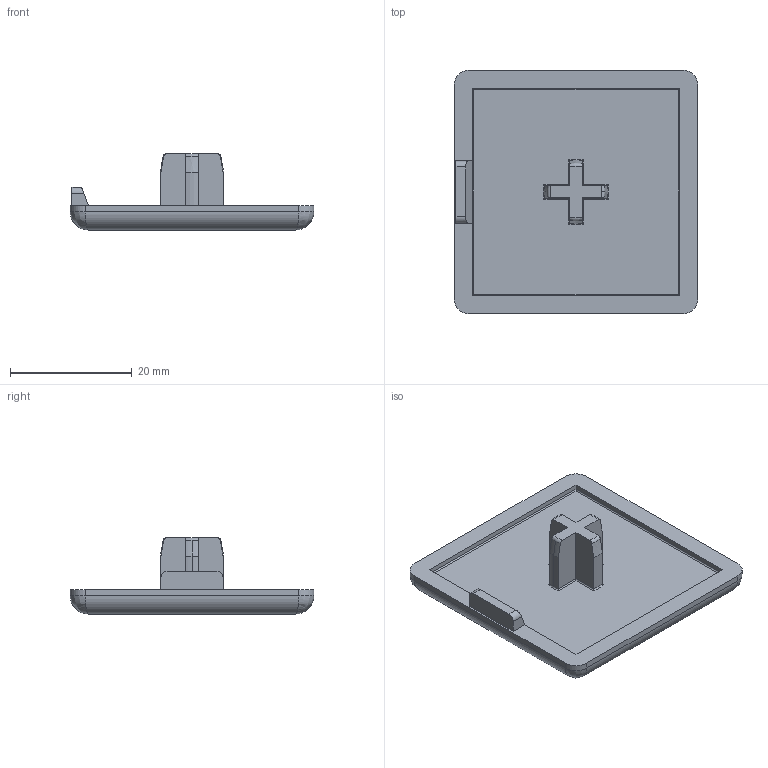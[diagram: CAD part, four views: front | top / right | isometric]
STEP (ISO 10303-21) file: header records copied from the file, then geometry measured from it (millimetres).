
FILE_DESCRIPTION (( 'STEP AP214' ), '1' );
FILE_NAME ('091046.STEP', '2013-06-17T12:11:36', ( 'User' ), ( '' ), 'SwSTEP 2.0', 'SolidWorks 2012', '' );
FILE_SCHEMA (( 'AUTOMOTIVE_DESIGN' ));
Length unit declared in the file: millimetre
Products named in the file (1): 091046
Bounding box: 40 x 40 x 12.5 mm (x, y, z)
Volume: 5344.1 mm3; surface area: 4167.2 mm2
Topology: 1 solids, 1 shells, 71 faces, 174 edges, 103 vertices
Faces by surface type: cylinder 27, plane 25, torus 10, cone 5, bspline 4
Entity records: 2277 total; most frequent: CARTESIAN_POINT 691, ORIENTED_EDGE 340, DIRECTION 303, EDGE_CURVE 170, AXIS2_PLACEMENT_3D 107, VERTEX_POINT 103, LINE 89, VECTOR 89
